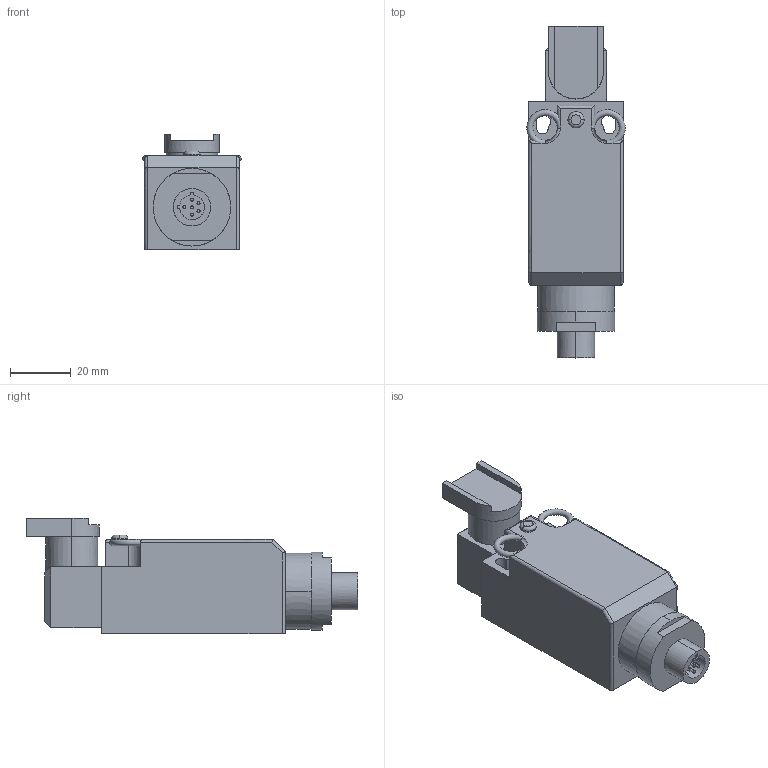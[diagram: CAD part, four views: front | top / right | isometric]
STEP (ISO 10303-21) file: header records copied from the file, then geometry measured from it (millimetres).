
FILE_DESCRIPTION((''),'2;1');
FILE_NAME('440PC_AL_6PIN_ASM','2013-02-05T',('Administrator'),(''),'PRO/ENGINEER BY PARAMETRIC TECHNOLOGY CORPORATION, 2006010','PRO/ENGINEER BY PARAMETRIC TECHNOLOGY CORPORATION, 2006010','');
FILE_SCHEMA(('CONFIG_CONTROL_DESIGN'));
Length unit declared in the file: inch
Products named in the file (3): 440PC_AL_HALF_INCH; 440P-C_QUICK_CONN_6PIN; 440PC_AL_6PIN_ASM
Assembly tree (2 placements, depth 2):
  440PC_AL_6PIN_ASM
    440PC_AL_HALF_INCH
    440P-C_QUICK_CONN_6PIN
Bounding box: 32.32 x 109.08 x 38 mm (x, y, z)
Surface area: 17459.4 mm2 (no closed solid volume)
Topology: 0 solids, 0 shells, 116 faces, 800 edges, 1015 vertices
Faces by surface type: bspline 112, torus 4
Entity records: 11942 total; most frequent: CARTESIAN_POINT 5756, DIRECTION 1133, TRIMMED_CURVE 940, VECTOR 773, LINE 773, DEFINITIONAL_REPRESENTATION 546, PCURVE 546, COMPOSITE_CURVE_SEGMENT 546
